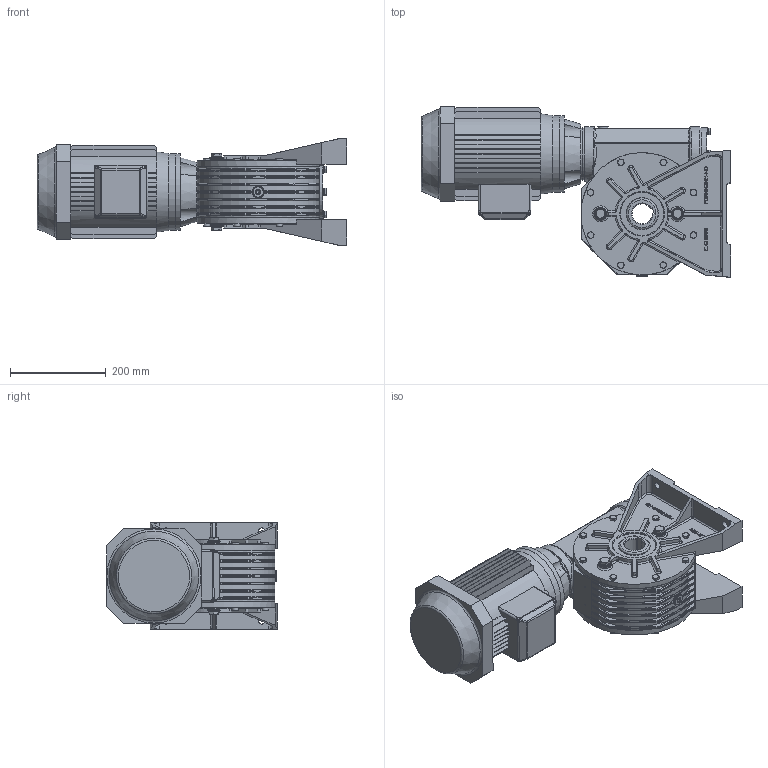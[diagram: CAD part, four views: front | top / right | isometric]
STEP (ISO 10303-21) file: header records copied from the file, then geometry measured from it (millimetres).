
FILE_DESCRIPTION((''),'2;1');
FILE_NAME('Y:\Archivi Inventor\Prog_01\GRAND_60\FIGURINI\MRV60 sito\100L\MRV60_P3_100L_B14.stp','2013-02-08T14:26:02',('tech3'),(''),'Autodesk Inventor 2013','Autodesk Inventor 2013','');
FILE_SCHEMA(('AUTOMOTIVE_DESIGN { 1 0 10303 214 1 1 1 1 }'));
Length unit declared in the file: millimetre
Products named in the file (18): MRV60_100L_112M_B14; MRV60_FIG; 0106001.A0 figurino; 0106010.A0 figurino; 0106009; UNI 5739 M8 x 20; figurino corona; PARAOLIO 65x90x10; 0106028; 0106029; UNI 5739 M8 x 25; Guarnizione 3_8 GAS; Tappo3_8 GAS; Tappo 3_8 GAS_esagn_incsst; DIN EN ISO 4762 M8 x 16; UNI 8839 A 8; 0106006; motori B14 100
Assembly tree (53 placements, depth 3):
  MRV60_100L_112M_B14
    MRV60_FIG
      0106001.A0 figurino
      0106010.A0 figurino  x2
      0106009
      UNI 5739 M8 x 20  x4
      figurino corona
      PARAOLIO 65x90x10  x2
      0106028
      0106029  x2
      UNI 5739 M8 x 25  x8
      Guarnizione 3_8 GAS  x6
      Tappo3_8 GAS  x4
      Tappo 3_8 GAS_esagn_incsst  x2
      DIN EN ISO 4762 M8 x 16  x12
      UNI 8839 A 8  x4
    0106006
    motori B14 100
Bounding box: 646.1 x 356.25 x 221.7 mm (x, y, z)
Volume: 16128086.5 mm3; surface area: 1461249.8 mm2
Topology: 52 solids, 56 shells, 2620 faces, 6502 edges, 4028 vertices
Faces by surface type: plane 1111, cylinder 610, bspline 564, cone 162, torus 125, sphere 48
Full cylindrical faces by diameter (mm): 2 x2, 6.647 x28, 8 x26, 8.5 x40, 8.75 x4, 9 x4, 11.63 x12, 13 x12, 13.046 x4, 14 x4, 14.95 x6, 16.3 x6, 16.5 x2, 22 x12, 25 x6, 28 x1, 42 x1, 65 x2, 70 x1, 72.881 x2, 80 x5, 83.5 x2, 90 x5, 109 x1, 109.5 x1, 110 x6, 114 x2, 114.4 x1, 160 x2, 216 x2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
Entity records: 57452 total; most frequent: CARTESIAN_POINT 19826, ORIENTED_EDGE 7680, DIRECTION 6939, EDGE_CURVE 3840, AXIS2_PLACEMENT_3D 2528, VERTEX_POINT 2497, EDGE_LOOP 1951, VECTOR 1883
